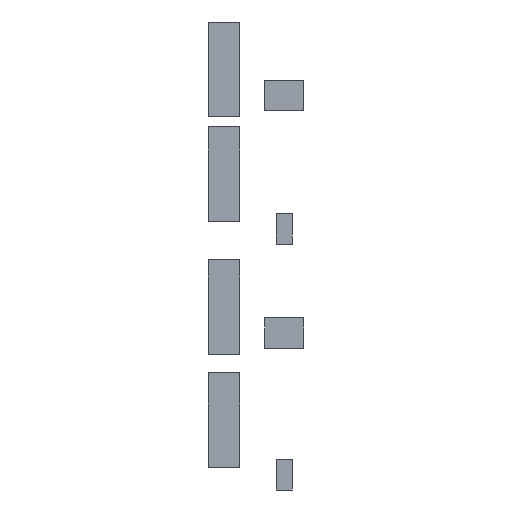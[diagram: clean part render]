
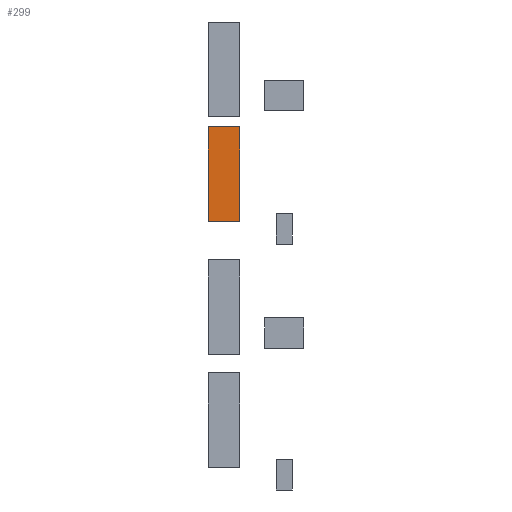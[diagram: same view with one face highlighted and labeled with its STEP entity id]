
A CAD part, front view. The second image highlights one B-rep face of the part: STEP entity #299.
In plain terms, the highlighted planar face has unit normal (0, -1, 0).
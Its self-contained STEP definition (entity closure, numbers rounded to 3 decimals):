
#83 = EDGE_CURVE('',#84,#86,#88,.T.);
#84 = VERTEX_POINT('',#85);
#85 = CARTESIAN_POINT('',(971.,-127.325,1987.));
#86 = VERTEX_POINT('',#87);
#87 = CARTESIAN_POINT('',(971.,-127.325,2222.));
#88 = SURFACE_CURVE('',#89,(#93,#105),.PCURVE_S1.);
#89 = LINE('',#90,#91);
#90 = CARTESIAN_POINT('',(971.,-127.325,1987.));
#91 = VECTOR('',#92,1.);
#92 = DIRECTION('',(0.,0.,1.));
#93 = PCURVE('',#94,#99);
#94 = PLANE('',#95);
#95 = AXIS2_PLACEMENT_3D('',#96,#97,#98);
#96 = CARTESIAN_POINT('',(971.,-127.325,1987.));
#97 = DIRECTION('',(1.,0.,-0.));
#98 = DIRECTION('',(0.,0.,1.));
#99 = DEFINITIONAL_REPRESENTATION('',(#100),#104);
#100 = LINE('',#101,#102);
#101 = CARTESIAN_POINT('',(0.,0.));
#102 = VECTOR('',#103,1.);
#103 = DIRECTION('',(1.,0.));
#104 = ( GEOMETRIC_REPRESENTATION_CONTEXT(2) 
PARAMETRIC_REPRESENTATION_CONTEXT() REPRESENTATION_CONTEXT('2D SPACE',''
  ) );
#105 = PCURVE('',#106,#111);
#106 = PLANE('',#107);
#107 = AXIS2_PLACEMENT_3D('',#108,#109,#110);
#108 = CARTESIAN_POINT('',(971.,-127.325,1987.));
#109 = DIRECTION('',(-0.,1.,0.));
#110 = DIRECTION('',(0.,0.,1.));
#111 = DEFINITIONAL_REPRESENTATION('',(#112),#116);
#112 = LINE('',#113,#114);
#113 = CARTESIAN_POINT('',(0.,0.));
#114 = VECTOR('',#115,1.);
#115 = DIRECTION('',(1.,0.));
#116 = ( GEOMETRIC_REPRESENTATION_CONTEXT(2) 
PARAMETRIC_REPRESENTATION_CONTEXT() REPRESENTATION_CONTEXT('2D SPACE',''
  ) );
#134 = PLANE('',#135);
#135 = AXIS2_PLACEMENT_3D('',#136,#137,#138);
#136 = CARTESIAN_POINT('',(971.,-127.325,1987.));
#137 = DIRECTION('',(0.,0.,1.));
#138 = DIRECTION('',(1.,0.,-0.));
#188 = PLANE('',#189);
#189 = AXIS2_PLACEMENT_3D('',#190,#191,#192);
#190 = CARTESIAN_POINT('',(971.,-127.325,2222.));
#191 = DIRECTION('',(0.,0.,1.));
#192 = DIRECTION('',(1.,0.,-0.));
#203 = EDGE_CURVE('',#204,#206,#208,.T.);
#204 = VERTEX_POINT('',#205);
#205 = CARTESIAN_POINT('',(1049.,-127.325,1987.));
#206 = VERTEX_POINT('',#207);
#207 = CARTESIAN_POINT('',(1049.,-127.325,2222.));
#208 = SURFACE_CURVE('',#209,(#213,#225),.PCURVE_S1.);
#209 = LINE('',#210,#211);
#210 = CARTESIAN_POINT('',(1049.,-127.325,1987.));
#211 = VECTOR('',#212,1.);
#212 = DIRECTION('',(0.,0.,1.));
#213 = PCURVE('',#214,#219);
#214 = PLANE('',#215);
#215 = AXIS2_PLACEMENT_3D('',#216,#217,#218);
#216 = CARTESIAN_POINT('',(1049.,-127.325,1987.));
#217 = DIRECTION('',(1.,0.,-0.));
#218 = DIRECTION('',(0.,0.,1.));
#219 = DEFINITIONAL_REPRESENTATION('',(#220),#224);
#220 = LINE('',#221,#222);
#221 = CARTESIAN_POINT('',(0.,0.));
#222 = VECTOR('',#223,1.);
#223 = DIRECTION('',(1.,0.));
#224 = ( GEOMETRIC_REPRESENTATION_CONTEXT(2) 
PARAMETRIC_REPRESENTATION_CONTEXT() REPRESENTATION_CONTEXT('2D SPACE',''
  ) );
#225 = PCURVE('',#106,#226);
#226 = DEFINITIONAL_REPRESENTATION('',(#227),#231);
#227 = LINE('',#228,#229);
#228 = CARTESIAN_POINT('',(0.,78.));
#229 = VECTOR('',#230,1.);
#230 = DIRECTION('',(1.,0.));
#231 = ( GEOMETRIC_REPRESENTATION_CONTEXT(2) 
PARAMETRIC_REPRESENTATION_CONTEXT() REPRESENTATION_CONTEXT('2D SPACE',''
  ) );
#299 = ADVANCED_FACE('',(#300),#106,.F.);
#300 = FACE_BOUND('',#301,.F.);
#301 = EDGE_LOOP('',(#302,#323,#324,#345));
#302 = ORIENTED_EDGE('',*,*,#303,.F.);
#303 = EDGE_CURVE('',#84,#204,#304,.T.);
#304 = SURFACE_CURVE('',#305,(#309,#316),.PCURVE_S1.);
#305 = LINE('',#306,#307);
#306 = CARTESIAN_POINT('',(971.,-127.325,1987.));
#307 = VECTOR('',#308,1.);
#308 = DIRECTION('',(1.,0.,-0.));
#309 = PCURVE('',#106,#310);
#310 = DEFINITIONAL_REPRESENTATION('',(#311),#315);
#311 = LINE('',#312,#313);
#312 = CARTESIAN_POINT('',(0.,0.));
#313 = VECTOR('',#314,1.);
#314 = DIRECTION('',(0.,1.));
#315 = ( GEOMETRIC_REPRESENTATION_CONTEXT(2) 
PARAMETRIC_REPRESENTATION_CONTEXT() REPRESENTATION_CONTEXT('2D SPACE',''
  ) );
#316 = PCURVE('',#134,#317);
#317 = DEFINITIONAL_REPRESENTATION('',(#318),#322);
#318 = LINE('',#319,#320);
#319 = CARTESIAN_POINT('',(0.,0.));
#320 = VECTOR('',#321,1.);
#321 = DIRECTION('',(1.,0.));
#322 = ( GEOMETRIC_REPRESENTATION_CONTEXT(2) 
PARAMETRIC_REPRESENTATION_CONTEXT() REPRESENTATION_CONTEXT('2D SPACE',''
  ) );
#323 = ORIENTED_EDGE('',*,*,#83,.T.);
#324 = ORIENTED_EDGE('',*,*,#325,.T.);
#325 = EDGE_CURVE('',#86,#206,#326,.T.);
#326 = SURFACE_CURVE('',#327,(#331,#338),.PCURVE_S1.);
#327 = LINE('',#328,#329);
#328 = CARTESIAN_POINT('',(971.,-127.325,2222.));
#329 = VECTOR('',#330,1.);
#330 = DIRECTION('',(1.,0.,-0.));
#331 = PCURVE('',#106,#332);
#332 = DEFINITIONAL_REPRESENTATION('',(#333),#337);
#333 = LINE('',#334,#335);
#334 = CARTESIAN_POINT('',(235.,0.));
#335 = VECTOR('',#336,1.);
#336 = DIRECTION('',(0.,1.));
#337 = ( GEOMETRIC_REPRESENTATION_CONTEXT(2) 
PARAMETRIC_REPRESENTATION_CONTEXT() REPRESENTATION_CONTEXT('2D SPACE',''
  ) );
#338 = PCURVE('',#188,#339);
#339 = DEFINITIONAL_REPRESENTATION('',(#340),#344);
#340 = LINE('',#341,#342);
#341 = CARTESIAN_POINT('',(0.,0.));
#342 = VECTOR('',#343,1.);
#343 = DIRECTION('',(1.,0.));
#344 = ( GEOMETRIC_REPRESENTATION_CONTEXT(2) 
PARAMETRIC_REPRESENTATION_CONTEXT() REPRESENTATION_CONTEXT('2D SPACE',''
  ) );
#345 = ORIENTED_EDGE('',*,*,#203,.F.);
